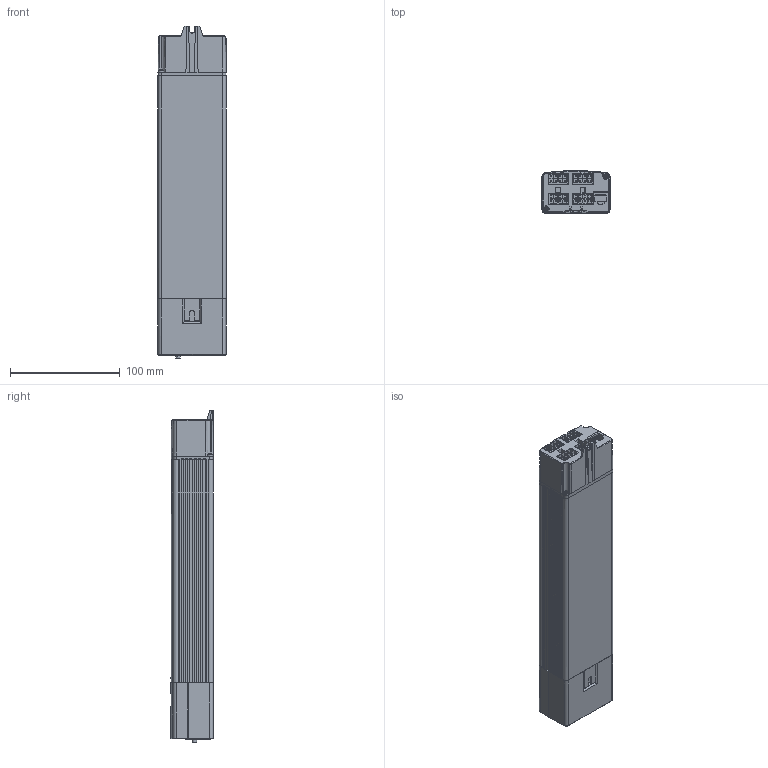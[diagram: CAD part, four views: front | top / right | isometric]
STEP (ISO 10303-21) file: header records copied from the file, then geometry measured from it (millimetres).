
FILE_DESCRIPTION((''),'2;1');
FILE_NAME('ENVELOP_CONTROL_AKKU','2019-06-12T05:12:58',('TEJ'),(''),'CREO PARAMETRIC BY PTC INC, 2019080','CREO PARAMETRIC BY PTC INC, 2019080','');
FILE_SCHEMA(('AUTOMOTIVE_DESIGN { 1 0 10303 214 1 1 1 1 }'));
Length unit declared in the file: millimetre
Products named in the file (1): ENVELOP_CONTROL_AKKU
Bounding box: 62 x 38.56 x 302.7 mm (x, y, z)
Volume: 649371.1 mm3; surface area: 81409.5 mm2
Topology: 1 solids, 3 shells, 1205 faces, 3207 edges, 2089 vertices
Faces by surface type: plane 979, cylinder 144, cone 38, bspline 17, extrusion 12, torus 11, sphere 4
Entity records: 40382 total; most frequent: CARTESIAN_POINT 10320, ORIENTED_EDGE 6414, DIRECTION 5749, EDGE_CURVE 3207, VECTOR 2703, LINE 2691, VERTEX_POINT 2089, AXIS2_PLACEMENT_3D 1523
